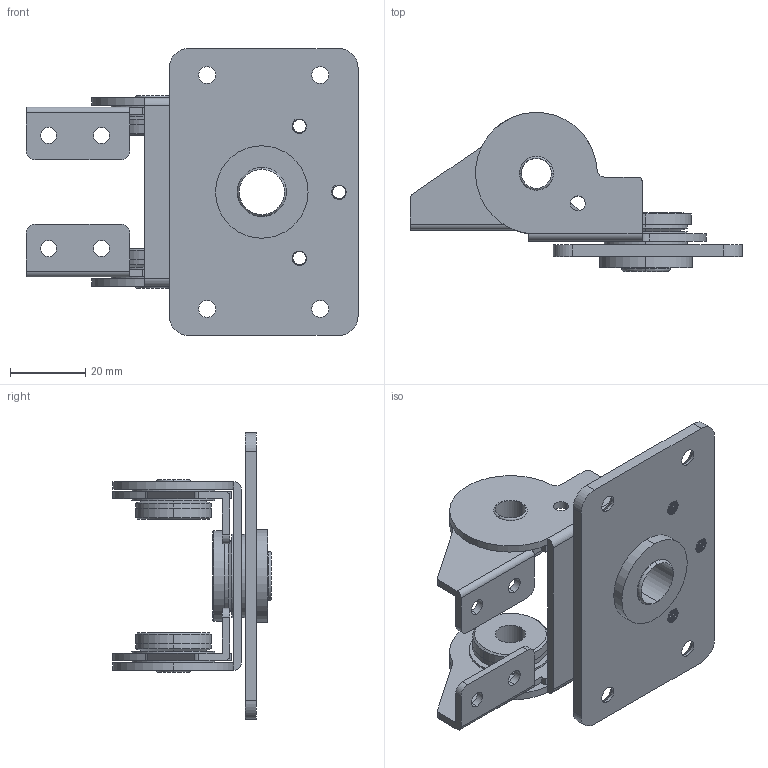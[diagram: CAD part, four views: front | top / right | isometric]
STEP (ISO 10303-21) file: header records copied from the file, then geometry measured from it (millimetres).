
FILE_DESCRIPTION (( 'STEP AP203' ), '1' );
FILE_NAME ('XG11-004.STEP', '2023-12-04T06:01:56', ( '' ), ( '' ), 'SwSTEP 2.0', 'SolidWorks 2020', '' );
FILE_SCHEMA (( 'CONFIG_CONTROL_DESIGN' ));
Length unit declared in the file: millimetre
Products named in the file (1): XG11-004
Bounding box: 88 x 42.12 x 76 mm (x, y, z)
Volume: 28997.4 mm3; surface area: 33307.9 mm2
Topology: 17 solids, 17 shells, 280 faces, 696 edges, 450 vertices
Faces by surface type: cylinder 173, plane 72, cone 20, bspline 9, torus 6
Entity records: 14223 total; most frequent: CARTESIAN_POINT 7433, DIRECTION 1431, ORIENTED_EDGE 1392, EDGE_CURVE 696, AXIS2_PLACEMENT_3D 571, VERTEX_POINT 450, EDGE_LOOP 344, CIRCLE 299
